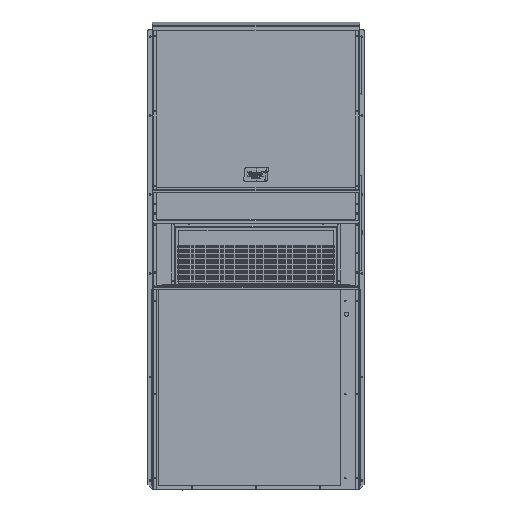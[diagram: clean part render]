
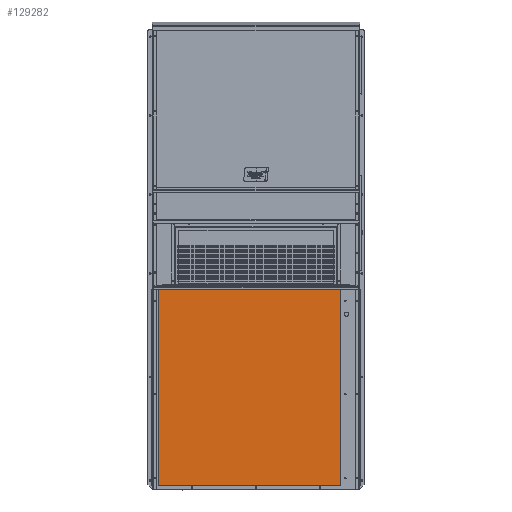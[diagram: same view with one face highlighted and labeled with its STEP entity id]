
A CAD part, top view. The second image highlights one B-rep face of the part: STEP entity #129282.
In plain terms, the highlighted planar face has unit normal (0, 0, 1).
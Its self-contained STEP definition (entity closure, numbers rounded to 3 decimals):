
#642 = VERTEX_POINT ( 'NONE', #59481 ) ;
#2650 = DIRECTION ( 'NONE',  ( 0., 0., 1. ) ) ;
#6091 = FACE_OUTER_BOUND ( 'NONE', #9891, .T. ) ;
#9891 = EDGE_LOOP ( 'NONE', ( #17097, #109259, #66096, #125547 ) ) ;
#17097 = ORIENTED_EDGE ( 'NONE', *, *, #122617, .T. ) ;
#20726 = VECTOR ( 'NONE', #72545, 39.37 ) ;
#22525 = CARTESIAN_POINT ( 'NONE',  ( -40.769, 40.083, 0.108 ) ) ;
#37138 = CARTESIAN_POINT ( 'NONE',  ( -40.769, -0.06, 0.108 ) ) ;
#43233 = EDGE_CURVE ( 'NONE', #69551, #72162, #58607, .T. ) ;
#43589 = VECTOR ( 'NONE', #127358, 39.37 ) ;
#47245 = CARTESIAN_POINT ( 'NONE',  ( -3.696, -0.06, 0.108 ) ) ;
#49903 = EDGE_CURVE ( 'NONE', #119014, #69551, #128837, .T. ) ;
#52175 = LINE ( 'NONE', #101106, #103041 ) ;
#58607 = LINE ( 'NONE', #37138, #112742 ) ;
#59481 = CARTESIAN_POINT ( 'NONE',  ( -3.696, 40.083, 0.108 ) ) ;
#60290 = DIRECTION ( 'NONE',  ( -1., 0., 0. ) ) ;
#62070 = AXIS2_PLACEMENT_3D ( 'NONE', #22525, #2650, #73630 ) ;
#62352 = CARTESIAN_POINT ( 'NONE',  ( -40.769, 40.083, 0.108 ) ) ;
#66096 = ORIENTED_EDGE ( 'NONE', *, *, #49903, .T. ) ;
#68653 = CARTESIAN_POINT ( 'NONE',  ( -40.769, -0.06, 0.108 ) ) ;
#69551 = VERTEX_POINT ( 'NONE', #68653 ) ;
#72162 = VERTEX_POINT ( 'NONE', #47245 ) ;
#72545 = DIRECTION ( 'NONE',  ( 0., -1., 0. ) ) ;
#73630 = DIRECTION ( 'NONE',  ( 0., -1., 0. ) ) ;
#91270 = CARTESIAN_POINT ( 'NONE',  ( -40.769, 40.083, 0.108 ) ) ;
#97967 = EDGE_CURVE ( 'NONE', #642, #119014, #52175, .T. ) ;
#101106 = CARTESIAN_POINT ( 'NONE',  ( -40.769, 40.083, 0.108 ) ) ;
#103041 = VECTOR ( 'NONE', #60290, 39.37 ) ;
#106945 = CARTESIAN_POINT ( 'NONE',  ( -3.696, 40.083, 0.108 ) ) ;
#108316 = DIRECTION ( 'NONE',  ( 1., 0., 0. ) ) ;
#109259 = ORIENTED_EDGE ( 'NONE', *, *, #97967, .T. ) ;
#112742 = VECTOR ( 'NONE', #108316, 39.37 ) ;
#119014 = VERTEX_POINT ( 'NONE', #91270 ) ;
#122617 = EDGE_CURVE ( 'NONE', #72162, #642, #124712, .T. ) ;
#124326 = PLANE ( 'NONE',  #62070 ) ;
#124712 = LINE ( 'NONE', #106945, #43589 ) ;
#125547 = ORIENTED_EDGE ( 'NONE', *, *, #43233, .T. ) ;
#127358 = DIRECTION ( 'NONE',  ( 0., 1., 0. ) ) ;
#128837 = LINE ( 'NONE', #62352, #20726 ) ;
#129282 = ADVANCED_FACE ( 'NONE', ( #6091 ), #124326, .T. ) ;
